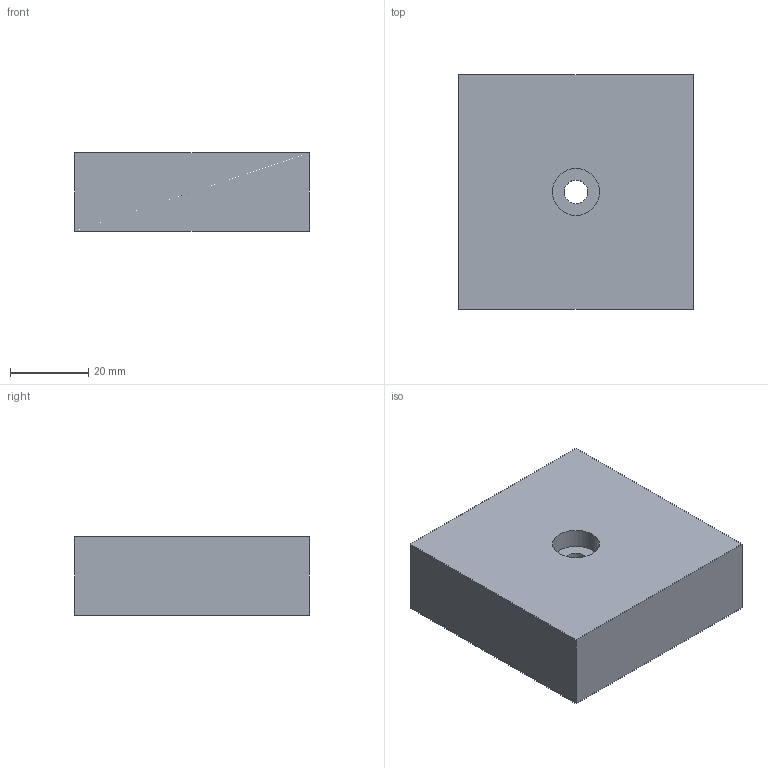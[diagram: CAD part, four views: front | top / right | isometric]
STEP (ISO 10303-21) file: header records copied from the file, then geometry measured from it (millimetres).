
FILE_DESCRIPTION(('Open CASCADE Model'),'2;1');
FILE_NAME('Open CASCADE Shape Model','2026-03-24T09:37:59',('Author'),( 'Open CASCADE'),'Open CASCADE STEP processor 7.8','Open CASCADE 7.8' ,'Unknown');
FILE_SCHEMA(('AUTOMOTIVE_DESIGN { 1 0 10303 214 1 1 1 1 }'));
Length unit declared in the file: millimetre
Products named in the file (1): Open CASCADE STEP translator 7.8 6
Bounding box: 60 x 60 x 20 mm (x, y, z)
Volume: 71010.4 mm3; surface area: 12414.7 mm2
Topology: 1 solids, 1 shells, 9 faces, 18 edges, 12 vertices
Faces by surface type: plane 7, cylinder 2
Full cylindrical faces by diameter (mm): 6 x1, 12 x1
Entity records: 490 total; most frequent: CARTESIAN_POINT 88, DIRECTION 76, LINE 46, VECTOR 46, ORIENTED_EDGE 36, PCURVE 36, DEFINITIONAL_REPRESENTATION 36, EDGE_CURVE 18
